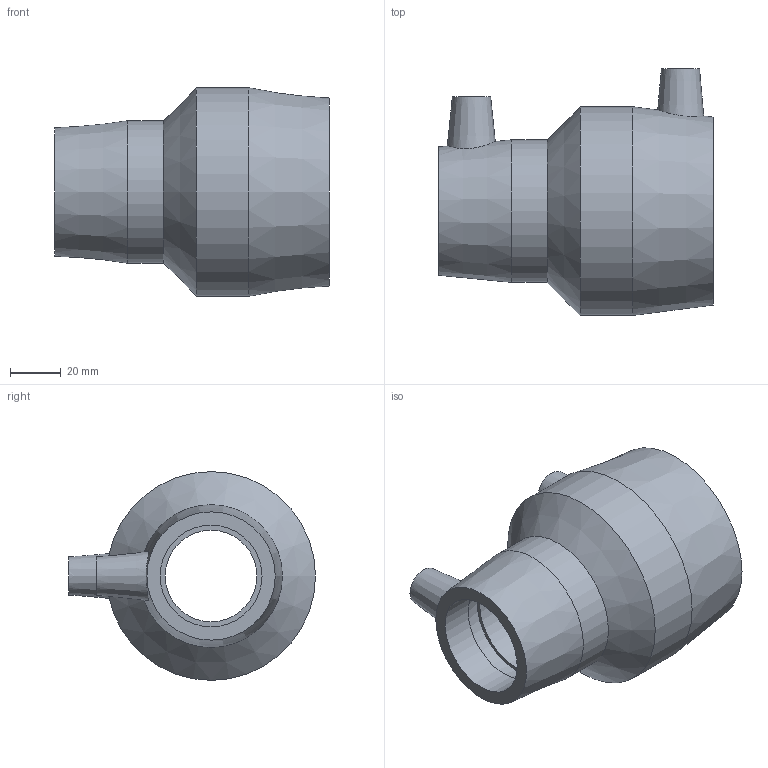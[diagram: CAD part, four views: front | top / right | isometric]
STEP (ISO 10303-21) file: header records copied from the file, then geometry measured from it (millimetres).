
FILE_DESCRIPTION(/* description */ ('PLASSON REDUCING COUPLER 63-40'),/* implementation_level */ '2;1');
FILE_NAME(/* name */ 'C:\Users\comp2\Dropbox\99-16-3568-Processing\491104 (Type 3)\stp\491104063040.stp',/* time_stamp */ '2022-06-29T14:25:27+01:00',/* author */ ('KIM'),/* organization */ (''),/* preprocessor_version */ 'ST-DEVELOPER v17.2',/* originating_system */ 'Autodesk Inventor 2019',/* authorisation */ '');
FILE_SCHEMA (('AUTOMOTIVE_DESIGN { 1 0 10303 214 3 1 1 }'));
Length unit declared in the file: millimetre
Products named in the file (1): 491104063040
Bounding box: 108 x 97 x 82 mm (x, y, z)
Volume: 174346.2 mm3; surface area: 49101.6 mm2
Topology: 1 solids, 1 shells, 31 faces, 72 edges, 53 vertices
Faces by surface type: plane 12, cylinder 11, cone 8
Full cylindrical faces by diameter (mm): 4 x2, 10 x2, 36 x1, 40 x2, 56 x1, 63 x2, 82 x1
Entity records: 1040 total; most frequent: CARTESIAN_POINT 225, DIRECTION 181, ORIENTED_EDGE 144, AXIS2_PLACEMENT_3D 81, EDGE_CURVE 72, VERTEX_POINT 53, CIRCLE 49, EDGE_LOOP 43
